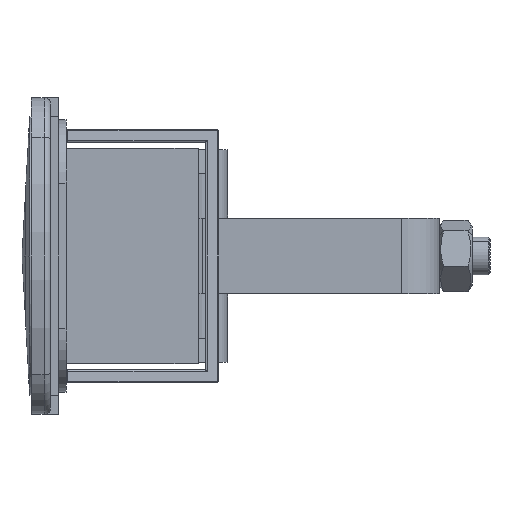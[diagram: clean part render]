
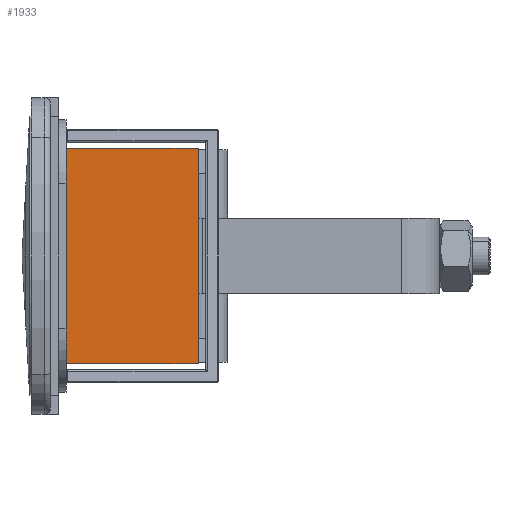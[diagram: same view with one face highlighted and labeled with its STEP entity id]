
A CAD part, left-side view. The second image highlights one B-rep face of the part: STEP entity #1933.
In plain terms, the highlighted planar face has unit normal (-1, 0, 0).
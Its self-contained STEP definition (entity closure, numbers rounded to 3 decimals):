
#232 = DIRECTION ( 'NONE',  ( 1., 0., 0. ) ) ;
#801 = AXIS2_PLACEMENT_3D ( 'NONE', #3836, #232, #3096 ) ;
#935 = FACE_OUTER_BOUND ( 'NONE', #8174, .T. ) ;
#1021 = CARTESIAN_POINT ( 'NONE',  ( -44.95, -1.25, -17.05 ) ) ;
#1933 = ADVANCED_FACE ( 'NONE', ( #935 ), #3793, .F. ) ;
#2353 = LINE ( 'NONE', #6048, #5129 ) ;
#2646 = EDGE_CURVE ( 'NONE', #6441, #5322, #8699, .T. ) ;
#2764 = VECTOR ( 'NONE', #3077, 1000. ) ;
#2808 = VERTEX_POINT ( 'NONE', #6767 ) ;
#3077 = DIRECTION ( 'NONE',  ( 0., 0., -1. ) ) ;
#3096 = DIRECTION ( 'NONE',  ( 0., 0., -1. ) ) ;
#3173 = DIRECTION ( 'NONE',  ( 0., 0., -1. ) ) ;
#3189 = ORIENTED_EDGE ( 'NONE', *, *, #3717, .T. ) ;
#3567 = CARTESIAN_POINT ( 'NONE',  ( -44.95, -23.25, 17.05 ) ) ;
#3717 = EDGE_CURVE ( 'NONE', #6018, #6441, #2353, .T. ) ;
#3793 = PLANE ( 'NONE',  #801 ) ;
#3836 = CARTESIAN_POINT ( 'NONE',  ( -44.95, -23.25, 17.05 ) ) ;
#4678 = CARTESIAN_POINT ( 'NONE',  ( -44.95, -23.25, 17.05 ) ) ;
#5129 = VECTOR ( 'NONE', #5197, 1000. ) ;
#5197 = DIRECTION ( 'NONE',  ( 0., 1., 0. ) ) ;
#5322 = VERTEX_POINT ( 'NONE', #1021 ) ;
#5839 = CARTESIAN_POINT ( 'NONE',  ( -44.95, -1.25, 17.05 ) ) ;
#6018 = VERTEX_POINT ( 'NONE', #4678 ) ;
#6048 = CARTESIAN_POINT ( 'NONE',  ( -44.95, -23.25, 17.05 ) ) ;
#6098 = VECTOR ( 'NONE', #8909, 1000. ) ;
#6314 = EDGE_CURVE ( 'NONE', #6018, #2808, #7826, .T. ) ;
#6392 = ORIENTED_EDGE ( 'NONE', *, *, #8424, .F. ) ;
#6441 = VERTEX_POINT ( 'NONE', #9265 ) ;
#6750 = CARTESIAN_POINT ( 'NONE',  ( -44.95, -23.25, -17.05 ) ) ;
#6767 = CARTESIAN_POINT ( 'NONE',  ( -44.95, -23.25, -17.05 ) ) ;
#7541 = ORIENTED_EDGE ( 'NONE', *, *, #6314, .F. ) ;
#7543 = ORIENTED_EDGE ( 'NONE', *, *, #2646, .T. ) ;
#7826 = LINE ( 'NONE', #3567, #8121 ) ;
#8121 = VECTOR ( 'NONE', #3173, 1000. ) ;
#8174 = EDGE_LOOP ( 'NONE', ( #7543, #6392, #7541, #3189 ) ) ;
#8304 = LINE ( 'NONE', #6750, #6098 ) ;
#8424 = EDGE_CURVE ( 'NONE', #2808, #5322, #8304, .T. ) ;
#8699 = LINE ( 'NONE', #5839, #2764 ) ;
#8909 = DIRECTION ( 'NONE',  ( 0., 1., 0. ) ) ;
#9265 = CARTESIAN_POINT ( 'NONE',  ( -44.95, -1.25, 17.05 ) ) ;
